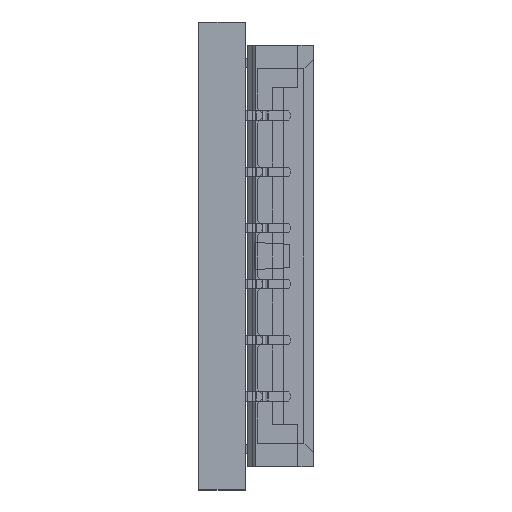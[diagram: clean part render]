
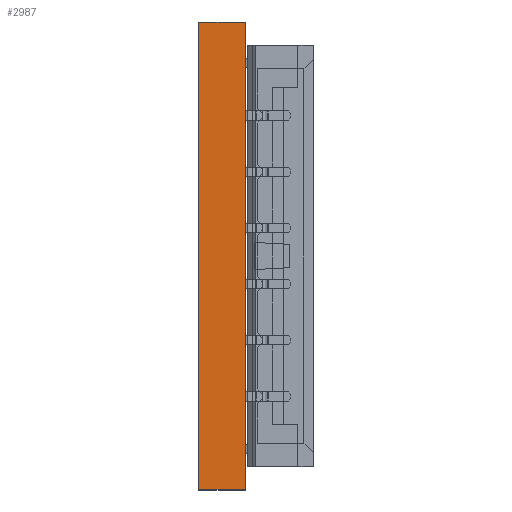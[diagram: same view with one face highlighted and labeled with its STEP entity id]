
A CAD part, left-side view. The second image highlights one B-rep face of the part: STEP entity #2987.
In plain terms, the highlighted planar face has unit normal (-1, 0, 0).
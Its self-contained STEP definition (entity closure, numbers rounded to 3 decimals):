
#628 = EDGE_CURVE ( 'NONE', #5987, #5289, #4077, .T. ) ;
#714 = LINE ( 'NONE', #4152, #5253 ) ;
#758 = AXIS2_PLACEMENT_3D ( 'NONE', #8386, #3381, #6183 ) ;
#1178 = ORIENTED_EDGE ( 'NONE', *, *, #2408, .T. ) ;
#1249 = DIRECTION ( 'NONE',  ( 0., 0., 1. ) ) ;
#1323 = CARTESIAN_POINT ( 'NONE',  ( -117., -1., 5. ) ) ;
#2408 = EDGE_CURVE ( 'NONE', #6060, #5987, #714, .T. ) ;
#2491 = EDGE_LOOP ( 'NONE', ( #3185, #8188, #1178, #7725 ) ) ;
#2582 = VECTOR ( 'NONE', #4418, 1000. ) ;
#2836 = VECTOR ( 'NONE', #1249, 1000. ) ;
#2987 = ADVANCED_FACE ( 'NONE', ( #7563 ), #8213, .T. ) ;
#3101 = LINE ( 'NONE', #7330, #2836 ) ;
#3185 = ORIENTED_EDGE ( 'NONE', *, *, #4823, .F. ) ;
#3381 = DIRECTION ( 'NONE',  ( -1., 0., 0. ) ) ;
#3496 = CARTESIAN_POINT ( 'NONE',  ( -117., 0., -5. ) ) ;
#4077 = LINE ( 'NONE', #1323, #7200 ) ;
#4152 = CARTESIAN_POINT ( 'NONE',  ( -117., -1., 5. ) ) ;
#4215 = DIRECTION ( 'NONE',  ( 0., 1., 0. ) ) ;
#4374 = CARTESIAN_POINT ( 'NONE',  ( -117., -1., -5. ) ) ;
#4418 = DIRECTION ( 'NONE',  ( 0., 1., 0. ) ) ;
#4823 = EDGE_CURVE ( 'NONE', #5384, #5289, #3101, .T. ) ;
#4834 = CARTESIAN_POINT ( 'NONE',  ( -117., 0., 5. ) ) ;
#5243 = CARTESIAN_POINT ( 'NONE',  ( -117., -1., 5. ) ) ;
#5253 = VECTOR ( 'NONE', #5460, 1000. ) ;
#5289 = VERTEX_POINT ( 'NONE', #4834 ) ;
#5384 = VERTEX_POINT ( 'NONE', #3496 ) ;
#5460 = DIRECTION ( 'NONE',  ( 0., 0., 1. ) ) ;
#5674 = CARTESIAN_POINT ( 'NONE',  ( -117., -1., -5. ) ) ;
#5987 = VERTEX_POINT ( 'NONE', #5243 ) ;
#6060 = VERTEX_POINT ( 'NONE', #5674 ) ;
#6183 = DIRECTION ( 'NONE',  ( 0., 0., 1. ) ) ;
#6527 = EDGE_CURVE ( 'NONE', #6060, #5384, #7183, .T. ) ;
#7183 = LINE ( 'NONE', #4374, #2582 ) ;
#7200 = VECTOR ( 'NONE', #4215, 1000. ) ;
#7330 = CARTESIAN_POINT ( 'NONE',  ( -117., 0., 5. ) ) ;
#7563 = FACE_OUTER_BOUND ( 'NONE', #2491, .T. ) ;
#7725 = ORIENTED_EDGE ( 'NONE', *, *, #628, .T. ) ;
#8188 = ORIENTED_EDGE ( 'NONE', *, *, #6527, .F. ) ;
#8213 = PLANE ( 'NONE',  #758 ) ;
#8386 = CARTESIAN_POINT ( 'NONE',  ( -117., -1., 5. ) ) ;
